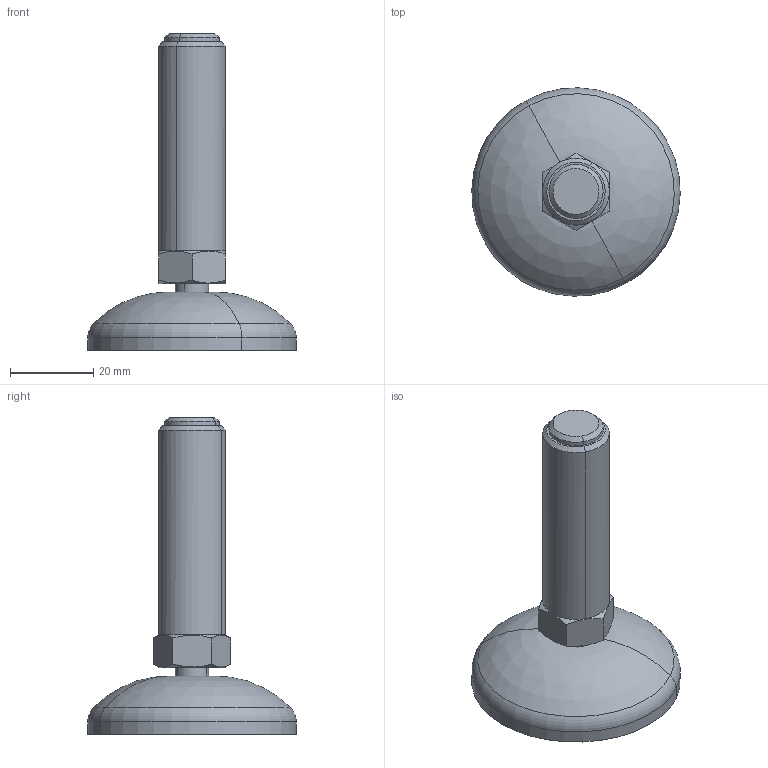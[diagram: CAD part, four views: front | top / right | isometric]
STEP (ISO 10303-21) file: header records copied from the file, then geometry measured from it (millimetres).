
FILE_DESCRIPTION(('CATIA V5 STEP Exchange'),'2;1');
FILE_NAME('C:\Users\dentellad\Desktop\P90601H_01.stp','2017-03-15T09:38:13+00:00',('none'),('none'),'Version 5-6 Release 2012','CATIA V5 STEP AP203','none');
FILE_SCHEMA(('CONFIG_CONTROL_DESIGN'));
Length unit declared in the file: millimetre
Products named in the file (1): P90601H_01
Assembly tree (2 placements, depth 2):
  P90601H_01
    #58
    #18373
Bounding box: 49.99 x 49.99 x 76 mm (x, y, z)
Volume: 22551.7 mm3; surface area: 11344.5 mm2
Topology: 2 solids, 2 shells, 559 faces, 1606 edges, 1057 vertices
Faces by surface type: plane 466, torus 30, cylinder 20, revolution 19, sphere 16, cone 8
Entity records: 19237 total; most frequent: CARTESIAN_POINT 6906, ORIENTED_EDGE 3200, EDGE_CURVE 1600, DIRECTION 1541, VERTEX_POINT 1057, B_SPLINE_CURVE_WITH_KNOTS 1007, AXIS2_PLACEMENT_3D 615, EDGE_LOOP 571
